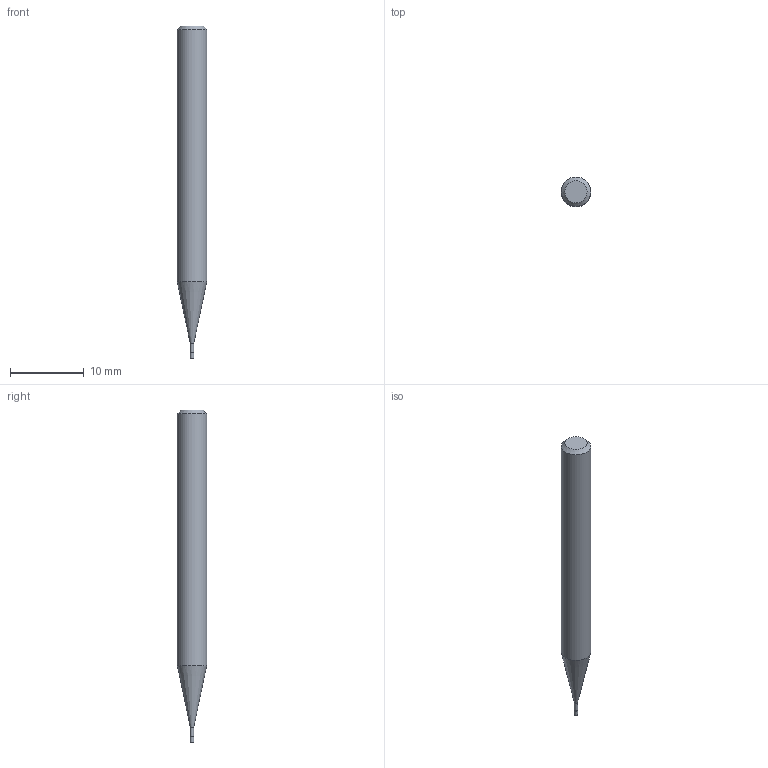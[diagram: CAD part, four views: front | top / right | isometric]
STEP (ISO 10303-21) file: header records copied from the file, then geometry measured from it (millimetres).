
FILE_DESCRIPTION((''),'2;1');
FILE_NAME('C:\Users\nsx150\AppData\Local\Temp\Mastercam 2021\17T8Q8S9EB\TEMP.step','2021-04-21T14:24:19',(''),(''),'STEP Write','Mastercam 2021 ... CNC Software, Inc.','');
FILE_SCHEMA(('AUTOMOTIVE_DESIGN'));
Length unit declared in the file: millimetre
Products named in the file (1): None
Bounding box: 4 x 4 x 45 mm (x, y, z)
Volume: 474 mm3; surface area: 507.5 mm2
Topology: 2 solids, 2 shells, 9 faces, 12 edges, 7 vertices
Faces by surface type: plane 4, cylinder 3, cone 2
Full cylindrical faces by diameter (mm): 0.46 x1, 0.5 x1, 4 x1
Entity records: 211 total; most frequent: DIRECTION 36, CARTESIAN_POINT 25, AXIS2_PLACEMENT_3D 18, ORIENTED_EDGE 14, EDGE_LOOP 14, STYLED_ITEM 12, ADVANCED_FACE 9, FACE_BOUND 8
